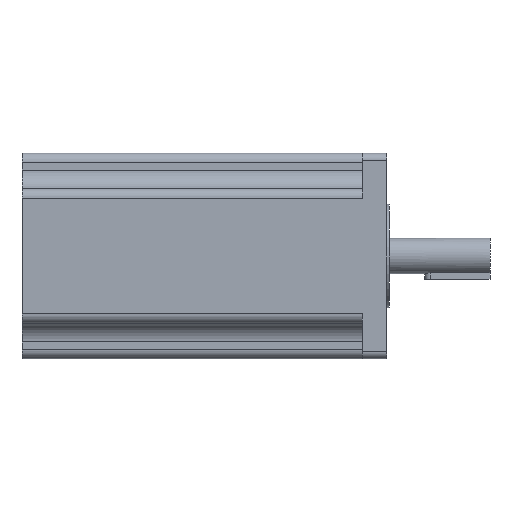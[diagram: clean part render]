
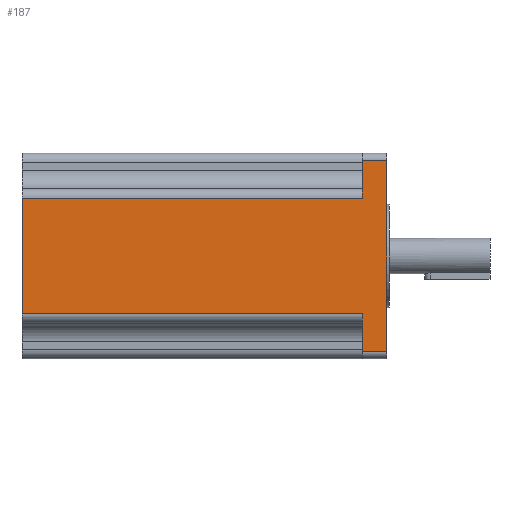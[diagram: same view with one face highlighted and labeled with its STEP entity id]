
A CAD part, left-side view. The second image highlights one B-rep face of the part: STEP entity #187.
In plain terms, the highlighted planar face has unit normal (-1, 0, 0).
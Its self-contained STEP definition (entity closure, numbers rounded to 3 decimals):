
#4 = AXIS2_PLACEMENT_3D ( 'NONE', #716, #276, #1875 ) ;
#60 = CARTESIAN_POINT ( 'NONE',  ( -61.934, 13., -23.166 ) ) ;
#74 = VECTOR ( 'NONE', #913, 1000. ) ;
#88 = CARTESIAN_POINT ( 'NONE',  ( -61.934, 195., 58.834 ) ) ;
#99 = EDGE_CURVE ( 'NONE', #437, #519, #465, .T. ) ;
#187 = ADVANCED_FACE ( 'NONE', ( #1567 ), #1299, .F. ) ;
#276 = DIRECTION ( 'NONE',  ( 1., 0., 0. ) ) ;
#293 = ORIENTED_EDGE ( 'NONE', *, *, #750, .T. ) ;
#371 = VECTOR ( 'NONE', #1662, 1000. ) ;
#382 = CARTESIAN_POINT ( 'NONE',  ( -61.934, 13., -27.166 ) ) ;
#437 = VERTEX_POINT ( 'NONE', #1566 ) ;
#455 = EDGE_CURVE ( 'NONE', #437, #1609, #1555, .T. ) ;
#462 = VECTOR ( 'NONE', #1181, 1000. ) ;
#465 = LINE ( 'NONE', #1362, #462 ) ;
#467 = LINE ( 'NONE', #1481, #74 ) ;
#518 = EDGE_LOOP ( 'NONE', ( #1526, #1363, #850, #1422, #1634, #293, #1141, #1243 ) ) ;
#519 = VERTEX_POINT ( 'NONE', #568 ) ;
#567 = VERTEX_POINT ( 'NONE', #1329 ) ;
#568 = CARTESIAN_POINT ( 'NONE',  ( -61.934, 13., 78.834 ) ) ;
#632 = EDGE_CURVE ( 'NONE', #567, #519, #467, .T. ) ;
#716 = CARTESIAN_POINT ( 'NONE',  ( -61.934, 150., -27.166 ) ) ;
#728 = LINE ( 'NONE', #751, #1040 ) ;
#733 = VERTEX_POINT ( 'NONE', #60 ) ;
#750 = EDGE_CURVE ( 'NONE', #1346, #1760, #1231, .T. ) ;
#751 = CARTESIAN_POINT ( 'NONE',  ( -61.934, 195., -3.166 ) ) ;
#796 = DIRECTION ( 'NONE',  ( 0., -1., 0. ) ) ;
#806 = EDGE_CURVE ( 'NONE', #1056, #567, #934, .T. ) ;
#839 = CARTESIAN_POINT ( 'NONE',  ( -61.934, 13., -3.166 ) ) ;
#850 = ORIENTED_EDGE ( 'NONE', *, *, #99, .F. ) ;
#913 = DIRECTION ( 'NONE',  ( 0., 1., 0. ) ) ;
#934 = LINE ( 'NONE', #1514, #371 ) ;
#1040 = VECTOR ( 'NONE', #1603, 1000. ) ;
#1056 = VERTEX_POINT ( 'NONE', #1161 ) ;
#1067 = VECTOR ( 'NONE', #1845, 1000. ) ;
#1141 = ORIENTED_EDGE ( 'NONE', *, *, #1777, .F. ) ;
#1161 = CARTESIAN_POINT ( 'NONE',  ( -61.934, 0., -23.166 ) ) ;
#1181 = DIRECTION ( 'NONE',  ( 0., 0., 1. ) ) ;
#1198 = EDGE_CURVE ( 'NONE', #733, #1056, #1201, .T. ) ;
#1201 = LINE ( 'NONE', #1600, #1401 ) ;
#1231 = LINE ( 'NONE', #1507, #1852 ) ;
#1243 = ORIENTED_EDGE ( 'NONE', *, *, #1198, .T. ) ;
#1245 = VECTOR ( 'NONE', #1289, 1000. ) ;
#1289 = DIRECTION ( 'NONE',  ( 0., 1., 0. ) ) ;
#1299 = PLANE ( 'NONE',  #4 ) ;
#1329 = CARTESIAN_POINT ( 'NONE',  ( -61.934, 0., 78.834 ) ) ;
#1346 = VERTEX_POINT ( 'NONE', #1546 ) ;
#1362 = CARTESIAN_POINT ( 'NONE',  ( -61.934, 13., 82.834 ) ) ;
#1363 = ORIENTED_EDGE ( 'NONE', *, *, #632, .T. ) ;
#1401 = VECTOR ( 'NONE', #1448, 1000. ) ;
#1419 = LINE ( 'NONE', #382, #1067 ) ;
#1422 = ORIENTED_EDGE ( 'NONE', *, *, #455, .T. ) ;
#1448 = DIRECTION ( 'NONE',  ( 0., -1., 0. ) ) ;
#1481 = CARTESIAN_POINT ( 'NONE',  ( -61.934, 150., 78.834 ) ) ;
#1507 = CARTESIAN_POINT ( 'NONE',  ( -61.934, 150., -3.166 ) ) ;
#1514 = CARTESIAN_POINT ( 'NONE',  ( -61.934, 0., -27.166 ) ) ;
#1526 = ORIENTED_EDGE ( 'NONE', *, *, #806, .T. ) ;
#1546 = CARTESIAN_POINT ( 'NONE',  ( -61.934, 195., -3.166 ) ) ;
#1555 = LINE ( 'NONE', #1724, #1245 ) ;
#1566 = CARTESIAN_POINT ( 'NONE',  ( -61.934, 13., 58.834 ) ) ;
#1567 = FACE_OUTER_BOUND ( 'NONE', #518, .T. ) ;
#1600 = CARTESIAN_POINT ( 'NONE',  ( -61.934, 150., -23.166 ) ) ;
#1603 = DIRECTION ( 'NONE',  ( 0., 0., 1. ) ) ;
#1609 = VERTEX_POINT ( 'NONE', #88 ) ;
#1634 = ORIENTED_EDGE ( 'NONE', *, *, #1816, .F. ) ;
#1662 = DIRECTION ( 'NONE',  ( 0., 0., 1. ) ) ;
#1724 = CARTESIAN_POINT ( 'NONE',  ( -61.934, 150., 58.834 ) ) ;
#1760 = VERTEX_POINT ( 'NONE', #839 ) ;
#1777 = EDGE_CURVE ( 'NONE', #733, #1760, #1419, .T. ) ;
#1816 = EDGE_CURVE ( 'NONE', #1346, #1609, #728, .T. ) ;
#1845 = DIRECTION ( 'NONE',  ( 0., 0., 1. ) ) ;
#1852 = VECTOR ( 'NONE', #796, 1000. ) ;
#1875 = DIRECTION ( 'NONE',  ( 0., 1., 0. ) ) ;
